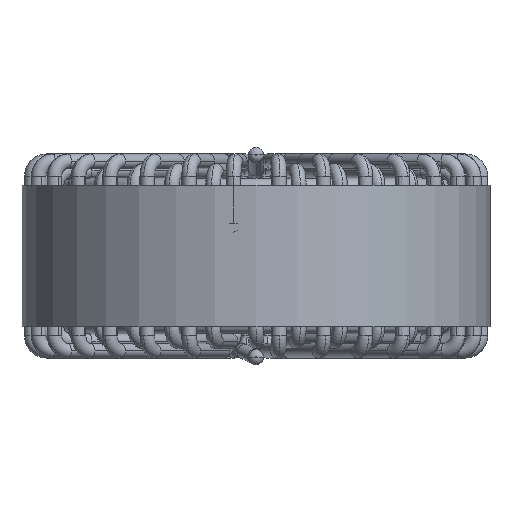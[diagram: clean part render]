
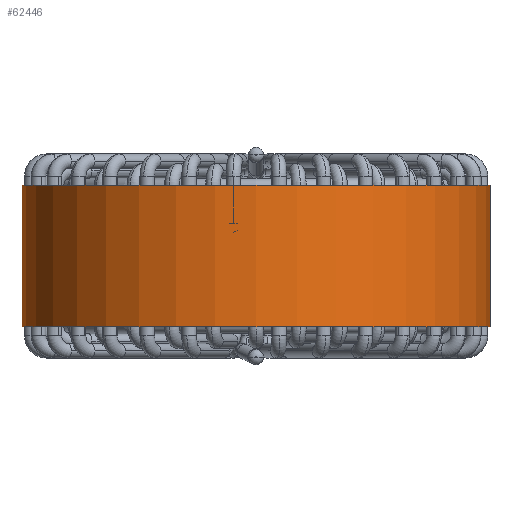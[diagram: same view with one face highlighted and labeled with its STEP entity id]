
A CAD part, front view. The second image highlights one B-rep face of the part: STEP entity #62446.
In plain terms, the highlighted cylindrical face has radius 23.15 mm (diameter 46.299 mm), a partial arc.
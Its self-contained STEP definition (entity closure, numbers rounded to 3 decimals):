
#3142 = DIRECTION ( 'NONE',  ( 0., 0., 1. ) ) ;
#5086 = CARTESIAN_POINT ( 'NONE',  ( 0., 0., 7. ) ) ;
#5330 = ORIENTED_EDGE ( 'NONE', *, *, #26253, .F. ) ;
#6172 = VERTEX_POINT ( 'NONE', #67761 ) ;
#14485 = LINE ( 'NONE', #46159, #60892 ) ;
#14932 = DIRECTION ( 'NONE',  ( 0., 0., -1. ) ) ;
#15085 = ORIENTED_EDGE ( 'NONE', *, *, #41213, .F. ) ;
#15261 = CARTESIAN_POINT ( 'NONE',  ( 0., 0., 7. ) ) ;
#15913 = EDGE_CURVE ( 'NONE', #6172, #69300, #45243, .T. ) ;
#17498 = DIRECTION ( 'NONE',  ( -1., 0., 0. ) ) ;
#19074 = EDGE_LOOP ( 'NONE', ( #5330, #15085, #52182, #23541 ) ) ;
#22472 = CARTESIAN_POINT ( 'NONE',  ( -23.15, 0., -7. ) ) ;
#23541 = ORIENTED_EDGE ( 'NONE', *, *, #69704, .T. ) ;
#26253 = EDGE_CURVE ( 'NONE', #34082, #35795, #14485, .T. ) ;
#29909 = AXIS2_PLACEMENT_3D ( 'NONE', #15261, #3142, #70572 ) ;
#32230 = CARTESIAN_POINT ( 'NONE',  ( 0., 0., -7. ) ) ;
#32415 = CARTESIAN_POINT ( 'NONE',  ( -23.15, 0., 7. ) ) ;
#34082 = VERTEX_POINT ( 'NONE', #35568 ) ;
#34226 = DIRECTION ( 'NONE',  ( 0., 0., -1. ) ) ;
#35568 = CARTESIAN_POINT ( 'NONE',  ( 23.15, 0., 7. ) ) ;
#35795 = VERTEX_POINT ( 'NONE', #58742 ) ;
#38594 = DIRECTION ( 'NONE',  ( 0., 0., 1. ) ) ;
#39304 = AXIS2_PLACEMENT_3D ( 'NONE', #32230, #38594, #44700 ) ;
#41213 = EDGE_CURVE ( 'NONE', #6172, #34082, #64027, .T. ) ;
#42416 = DIRECTION ( 'NONE',  ( 0., 0., -1. ) ) ;
#43910 = CIRCLE ( 'NONE', #39304, 23.15 ) ;
#44700 = DIRECTION ( 'NONE',  ( 1., 0., 0. ) ) ;
#45243 = LINE ( 'NONE', #32415, #51818 ) ;
#46159 = CARTESIAN_POINT ( 'NONE',  ( 23.15, 0., 7. ) ) ;
#48836 = FACE_OUTER_BOUND ( 'NONE', #19074, .T. ) ;
#50727 = AXIS2_PLACEMENT_3D ( 'NONE', #5086, #42416, #17498 ) ;
#51818 = VECTOR ( 'NONE', #14932, 1000. ) ;
#52182 = ORIENTED_EDGE ( 'NONE', *, *, #15913, .T. ) ;
#58742 = CARTESIAN_POINT ( 'NONE',  ( 23.15, 0., -7. ) ) ;
#60892 = VECTOR ( 'NONE', #34226, 1000. ) ;
#61190 = CYLINDRICAL_SURFACE ( 'NONE', #50727, 23.15 ) ;
#62446 = ADVANCED_FACE ( 'NONE', ( #48836 ), #61190, .T. ) ;
#64027 = CIRCLE ( 'NONE', #29909, 23.15 ) ;
#67761 = CARTESIAN_POINT ( 'NONE',  ( -23.15, 0., 7. ) ) ;
#69300 = VERTEX_POINT ( 'NONE', #22472 ) ;
#69704 = EDGE_CURVE ( 'NONE', #69300, #35795, #43910, .T. ) ;
#70572 = DIRECTION ( 'NONE',  ( 1., 0., 0. ) ) ;
